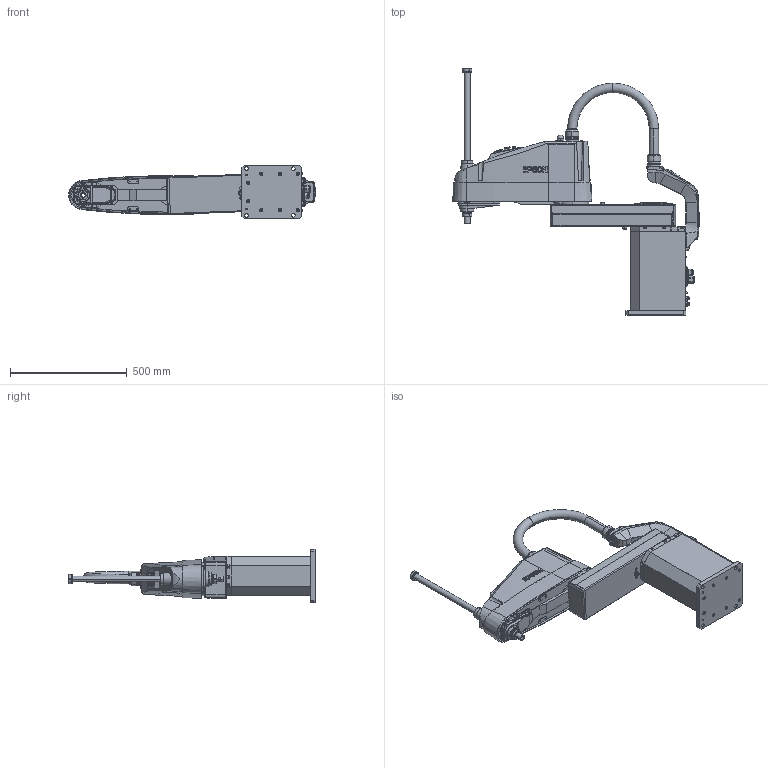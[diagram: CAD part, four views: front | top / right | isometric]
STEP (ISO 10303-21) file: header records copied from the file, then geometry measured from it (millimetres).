
FILE_DESCRIPTION (( 'STEP AP214' ), '1' );
FILE_NAME ('LS20-x804S.STEP', '2026-08-04T23:55:42', ( '' ), ( '' ), 'SwSTEP 2.0', 'SolidWorks 2020', '' );
FILE_SCHEMA (( 'AUTOMOTIVE_DESIGN' ));
Length unit declared in the file: millimetre
Products named in the file (7): LS20-C804S_J1; LS20-C804S_J2; LS20-x804S; LS20-C804S_CABLE; LS20-C804S_BASE2; LS20-C804S_BASE; LS20-C804S_SHAFT
Assembly tree (6 placements, depth 2):
  LS20-x804S
    LS20-C804S_BASE
    LS20-C804S_BASE2
    LS20-C804S_J1
    LS20-C804S_J2
    LS20-C804S_SHAFT
    LS20-C804S_CABLE
Bounding box: 1057.05 x 1053.5 x 230 mm (x, y, z)
Volume: 41755552.3 mm3; surface area: 1878844.6 mm2
Topology: 6 solids, 6 shells, 3188 faces, 8091 edges, 5217 vertices
Faces by surface type: plane 1471, cylinder 1117, cone 447, torus 105, sphere 38, bspline 10
Entity records: 121835 total; most frequent: CARTESIAN_POINT 36372, ORIENTED_EDGE 16066, DIRECTION 14501, EDGE_CURVE 8033, AXIS2_PLACEMENT_3D 5377, VERTEX_POINT 5215, VECTOR 3747, LINE 3747
